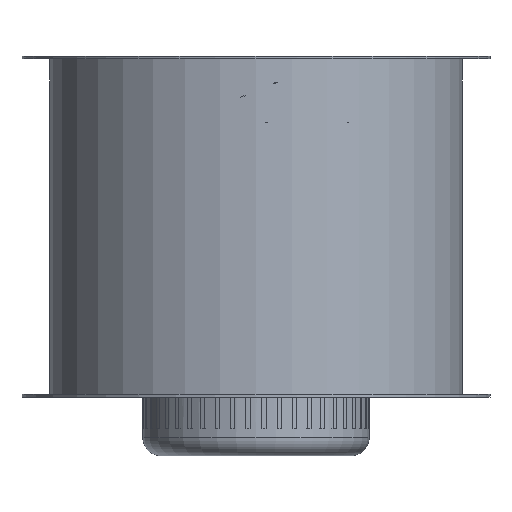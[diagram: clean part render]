
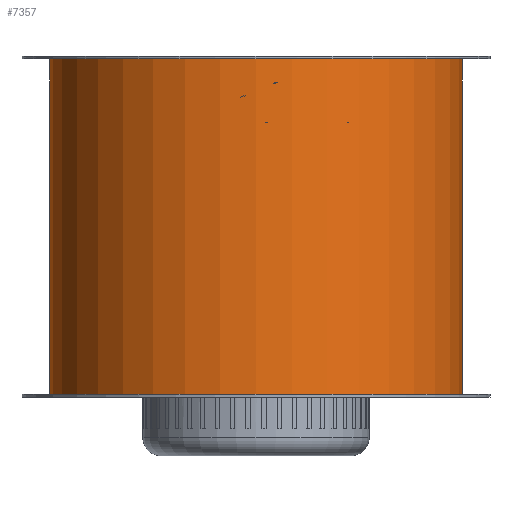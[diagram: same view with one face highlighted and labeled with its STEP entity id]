
A CAD part, front view. The second image highlights one B-rep face of the part: STEP entity #7357.
In plain terms, the highlighted cylindrical face has radius 229 mm (diameter 458 mm), a full revolution.
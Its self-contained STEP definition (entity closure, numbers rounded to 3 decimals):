
#711=FACE_OUTER_BOUND('',#1330,.T.);
#816=FACE_BOUND('',#1331,.T.);
#817=FACE_BOUND('',#1332,.T.);
#1330=EDGE_LOOP('',(#6701,#6702,#6703,#6704));
#1331=EDGE_LOOP('',(#6705,#6706));
#1332=EDGE_LOOP('',(#6707,#6708,#6709,#6710));
#1572=CIRCLE('',#7865,229.);
#1573=CIRCLE('',#7867,229.);
#1685=CIRCLE('',#8067,229.);
#1688=CIRCLE('',#8072,229.);
#1736=B_SPLINE_CURVE_WITH_KNOTS('',3,(#11675,#11676,#11677,#11678,#11679,
#11680,#11681,#11682,#11683,#11684),.UNSPECIFIED.,.F.,.F.,(4,2,2,2,4),(0.,
0.28,0.56,0.898,1.236),
 .UNSPECIFIED.);
#1737=B_SPLINE_CURVE_WITH_KNOTS('',3,(#11685,#11686,#11687,#11688,#11689,
#11690,#11691,#11692,#11693,#11694,#11695,#11696,#11697,#11698,#11699,#11700,
#11701,#11702,#11703,#11704,#11705,#11706,#11707,#11708,#11709,#11710),
 .UNSPECIFIED.,.F.,.F.,(4,2,2,2,2,2,2,2,2,2,2,2,4),(1.236,1.581,
1.926,2.206,2.487,2.768,3.049,
3.394,3.739,4.077,4.415,4.695,
4.975),.UNSPECIFIED.);
#2280=LINE('',#11775,#2813);
#2288=LINE('',#11790,#2821);
#2392=LINE('',#13968,#2925);
#2813=VECTOR('',#9464,10.);
#2821=VECTOR('',#9476,10.);
#2925=VECTOR('',#10002,229.);
#3396=VERTEX_POINT('',#11673);
#3397=VERTEX_POINT('',#11674);
#3405=VERTEX_POINT('',#11771);
#3407=VERTEX_POINT('',#11774);
#3411=VERTEX_POINT('',#11786);
#3412=VERTEX_POINT('',#11788);
#3583=VERTEX_POINT('',#13955);
#3586=VERTEX_POINT('',#13964);
#4267=EDGE_CURVE('',#3396,#3397,#1736,.T.);
#4268=EDGE_CURVE('',#3397,#3396,#1737,.T.);
#4283=EDGE_CURVE('',#3407,#3405,#2280,.T.);
#4291=EDGE_CURVE('',#3411,#3412,#2288,.T.);
#4292=EDGE_CURVE('',#3405,#3411,#1572,.T.);
#4293=EDGE_CURVE('',#3412,#3407,#1573,.T.);
#4627=EDGE_CURVE('',#3583,#3583,#1685,.T.);
#4631=EDGE_CURVE('',#3586,#3586,#1688,.T.);
#4632=EDGE_CURVE('',#3586,#3583,#2392,.T.);
#6701=ORIENTED_EDGE('',*,*,#4631,.T.);
#6702=ORIENTED_EDGE('',*,*,#4632,.T.);
#6703=ORIENTED_EDGE('',*,*,#4627,.T.);
#6704=ORIENTED_EDGE('',*,*,#4632,.F.);
#6705=ORIENTED_EDGE('',*,*,#4267,.T.);
#6706=ORIENTED_EDGE('',*,*,#4268,.T.);
#6707=ORIENTED_EDGE('',*,*,#4291,.T.);
#6708=ORIENTED_EDGE('',*,*,#4293,.T.);
#6709=ORIENTED_EDGE('',*,*,#4283,.T.);
#6710=ORIENTED_EDGE('',*,*,#4292,.T.);
#6823=CYLINDRICAL_SURFACE('',#8074,229.);
#7357=ADVANCED_FACE('',(#711,#816,#817),#6823,.T.);
#7865=AXIS2_PLACEMENT_3D('',#11792,#9479,#9480);
#7867=AXIS2_PLACEMENT_3D('',#11794,#9483,#9484);
#8067=AXIS2_PLACEMENT_3D('',#13956,#9985,#9986);
#8072=AXIS2_PLACEMENT_3D('',#13965,#9996,#9997);
#8074=AXIS2_PLACEMENT_3D('',#13967,#10000,#10001);
#9464=DIRECTION('',(0.,0.,-1.));
#9476=DIRECTION('',(0.,0.,1.));
#9479=DIRECTION('center_axis',(0.,0.,-1.));
#9480=DIRECTION('ref_axis',(-1.,0.,0.));
#9483=DIRECTION('center_axis',(0.,0.,1.));
#9484=DIRECTION('ref_axis',(-1.,0.,0.));
#9985=DIRECTION('center_axis',(0.,0.,1.));
#9986=DIRECTION('ref_axis',(-1.,0.,0.));
#9996=DIRECTION('center_axis',(0.,0.,-1.));
#9997=DIRECTION('ref_axis',(-1.,0.,0.));
#10000=DIRECTION('center_axis',(0.,0.,1.));
#10001=DIRECTION('ref_axis',(-1.,0.,0.));
#10002=DIRECTION('',(0.,0.,-1.));
#11673=CARTESIAN_POINT('',(-118.056,196.224,-114.));
#11674=CARTESIAN_POINT('',(-125.556,191.512,-106.5));
#11675=CARTESIAN_POINT('Ctrl Pts',(-118.056,196.224,-114.));
#11676=CARTESIAN_POINT('Ctrl Pts',(-118.056,196.224,-113.067));
#11677=CARTESIAN_POINT('Ctrl Pts',(-118.241,196.113,-112.084));
#11678=CARTESIAN_POINT('Ctrl Pts',(-118.961,195.677,-110.3));
#11679=CARTESIAN_POINT('Ctrl Pts',(-119.495,195.352,-109.5));
#11680=CARTESIAN_POINT('Ctrl Pts',(-120.792,194.553,-108.114));
#11681=CARTESIAN_POINT('Ctrl Pts',(-121.682,193.999,-107.494));
#11682=CARTESIAN_POINT('Ctrl Pts',(-123.593,192.787,-106.687));
#11683=CARTESIAN_POINT('Ctrl Pts',(-124.613,192.13,-106.5));
#11684=CARTESIAN_POINT('Ctrl Pts',(-125.556,191.512,-106.5));
#11685=CARTESIAN_POINT('Ctrl Pts',(-125.556,191.512,-106.5));
#11686=CARTESIAN_POINT('Ctrl Pts',(-126.517,190.881,-106.5));
#11687=CARTESIAN_POINT('Ctrl Pts',(-127.547,190.195,-106.695));
#11688=CARTESIAN_POINT('Ctrl Pts',(-129.462,188.896,-107.514));
#11689=CARTESIAN_POINT('Ctrl Pts',(-130.348,188.285,-108.138));
#11690=CARTESIAN_POINT('Ctrl Pts',(-131.629,187.39,-109.52));
#11691=CARTESIAN_POINT('Ctrl Pts',(-132.155,187.019,-110.311));
#11692=CARTESIAN_POINT('Ctrl Pts',(-132.869,186.513,-112.083));
#11693=CARTESIAN_POINT('Ctrl Pts',(-133.056,186.379,-113.064));
#11694=CARTESIAN_POINT('Ctrl Pts',(-133.056,186.379,-114.936));
#11695=CARTESIAN_POINT('Ctrl Pts',(-132.869,186.513,-115.917));
#11696=CARTESIAN_POINT('Ctrl Pts',(-132.155,187.019,-117.689));
#11697=CARTESIAN_POINT('Ctrl Pts',(-131.629,187.39,-118.48));
#11698=CARTESIAN_POINT('Ctrl Pts',(-130.348,188.285,-119.862));
#11699=CARTESIAN_POINT('Ctrl Pts',(-129.462,188.896,-120.486));
#11700=CARTESIAN_POINT('Ctrl Pts',(-127.547,190.195,-121.305));
#11701=CARTESIAN_POINT('Ctrl Pts',(-126.517,190.881,-121.5));
#11702=CARTESIAN_POINT('Ctrl Pts',(-124.613,192.13,-121.5));
#11703=CARTESIAN_POINT('Ctrl Pts',(-123.593,192.787,-121.313));
#11704=CARTESIAN_POINT('Ctrl Pts',(-121.682,193.999,-120.506));
#11705=CARTESIAN_POINT('Ctrl Pts',(-120.792,194.553,-119.886));
#11706=CARTESIAN_POINT('Ctrl Pts',(-119.495,195.352,-118.5));
#11707=CARTESIAN_POINT('Ctrl Pts',(-118.961,195.677,-117.7));
#11708=CARTESIAN_POINT('Ctrl Pts',(-118.241,196.113,-115.916));
#11709=CARTESIAN_POINT('Ctrl Pts',(-118.056,196.224,-114.933));
#11710=CARTESIAN_POINT('Ctrl Pts',(-118.056,196.224,-114.));
#11771=CARTESIAN_POINT('',(-83.704,213.154,-177.));
#11774=CARTESIAN_POINT('',(-83.704,213.154,-51.));
#11775=CARTESIAN_POINT('',(-83.704,213.154,0.));
#11786=CARTESIAN_POINT('',(83.704,213.154,-177.));
#11788=CARTESIAN_POINT('',(83.704,213.154,-51.));
#11790=CARTESIAN_POINT('',(83.704,213.154,0.));
#11792=CARTESIAN_POINT('Origin',(0.,0.,-177.));
#11794=CARTESIAN_POINT('Origin',(0.,0.,-51.));
#13955=CARTESIAN_POINT('',(229.,0.,-186.));
#13956=CARTESIAN_POINT('Origin',(0.,0.,-186.));
#13964=CARTESIAN_POINT('',(229.,0.,186.));
#13965=CARTESIAN_POINT('Origin',(0.,0.,186.));
#13967=CARTESIAN_POINT('Origin',(0.,0.,0.));
#13968=CARTESIAN_POINT('',(229.,0.,0.));
